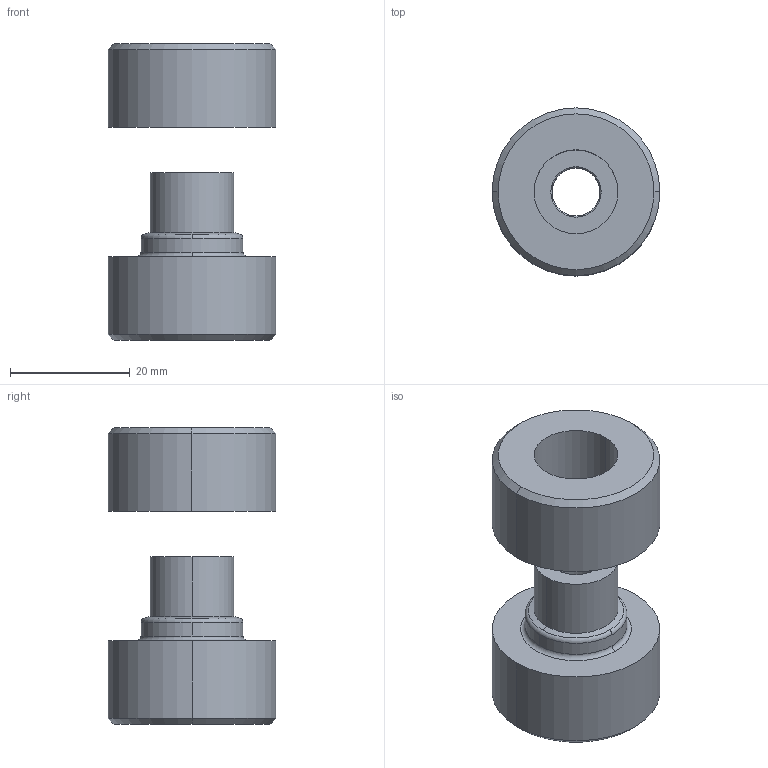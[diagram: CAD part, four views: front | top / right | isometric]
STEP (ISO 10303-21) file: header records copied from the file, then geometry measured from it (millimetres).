
FILE_DESCRIPTION(('STEP AP214'),'1');
FILE_NAME('C:/Transfer Dokumente/U-Mount M8 (240725).stp','2025-07-24T13:53:55',(' '),(' '),'Spatial InterOp 3D',' ',' ');
FILE_SCHEMA(('automotive_design'));
Length unit declared in the file: millimetre
Products named in the file (2): 1; 2
Bounding box: 28 x 28 x 49.53 mm (x, y, z)
Volume: 16025.9 mm3; surface area: 6333 mm2
Topology: 2 solids, 2 shells, 31 faces, 69 edges, 43 vertices
Faces by surface type: cylinder 12, cone 10, plane 5, torus 4
Entity records: 916 total; most frequent: DIRECTION 182, CARTESIAN_POINT 145, ORIENTED_EDGE 138, AXIS2_PLACEMENT_3D 80, EDGE_CURVE 69, CIRCLE 47, VERTEX_POINT 43, EDGE_LOOP 36
